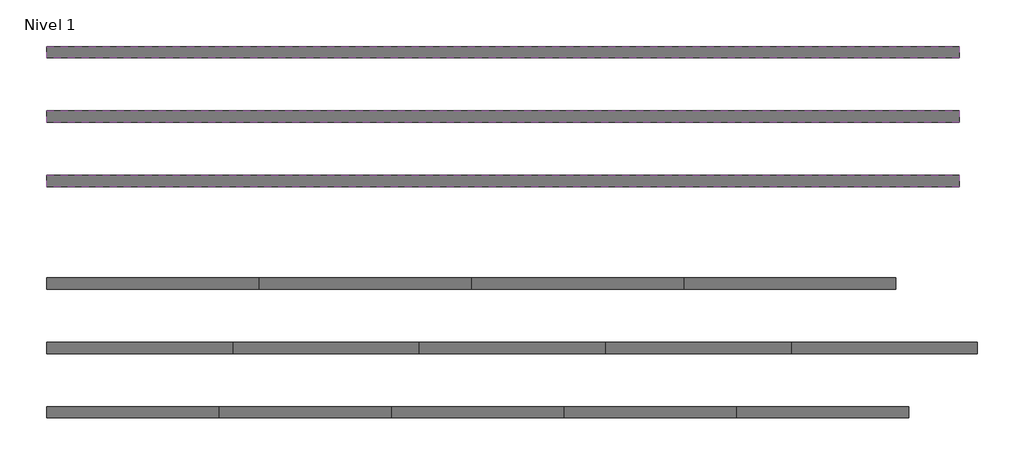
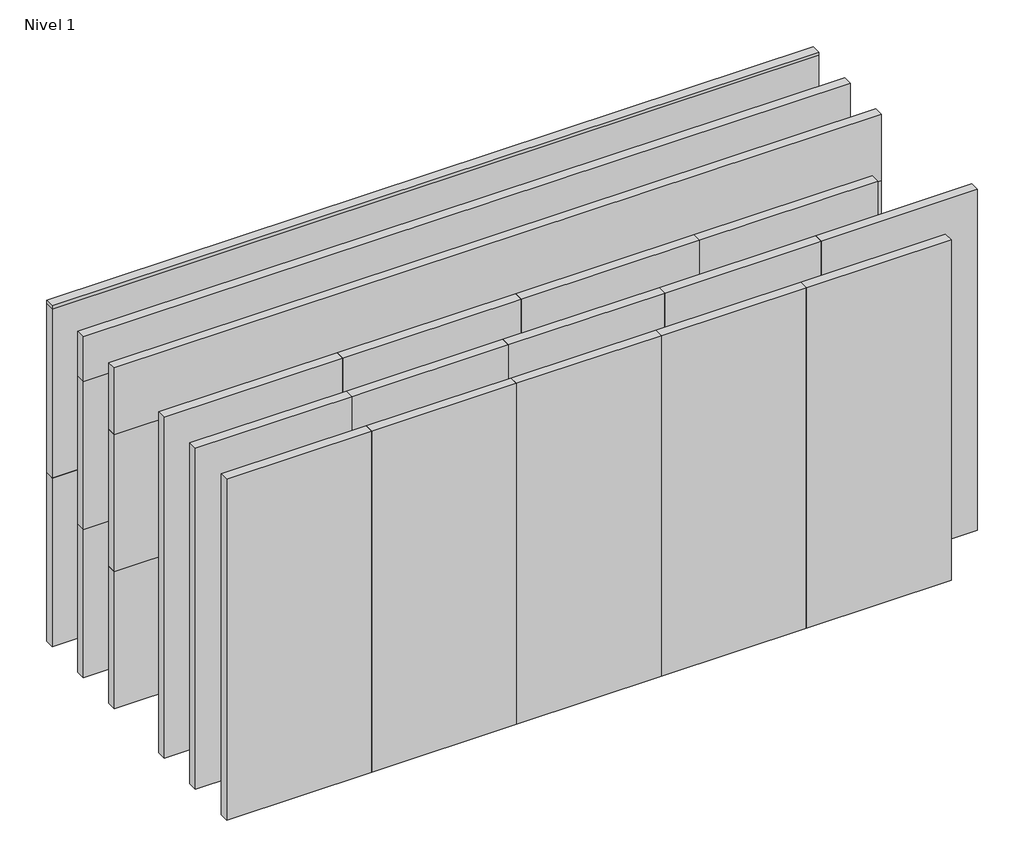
# One storey: 23 plates.
"""IFC4 building model written with IfcOpenShell, lengths in millimetres."""

from ifc_helpers import new_model, si_unit, origin, place, context, project, spatial, transform, mapped, element, save
from components import panel_del_sistema_744a27d1, panel_del_sistema_b48b2a53, panel_del_sistema_2bad36e5, panel_del_sistema_a0ea347b, panel_del_sistema_777d9fad, panel_del_sistema_c1a5f5a9, panel_del_sistema_afb86d00, panel_del_sistema_4e5da040, panel_del_sistema_0ed8374e

model = new_model("IFC4")

# Units and contexts
model_context = context("Model", 3, world=origin())
ifc_project = project(units=[si_unit("LENGTHUNIT", "METRE", prefix="MILLI")], contexts=[model_context])

# Site, building, storey
site = spatial("IfcSite", under=ifc_project)
building = spatial("IfcBuilding", under=site)
storey = spatial("IfcBuildingStorey", under=building, Name="Nivel 1", Elevation=0.0)

# Plates
placement = place(None, origin())
panel_del_sistema_shape = panel_del_sistema_744a27d1(model_context)
element("IfcPlate", 1, ObjectType="Panel del sistema : HIANSA - CHAPA PERFILADA CUBIERTA - MT53MA6 Hor", at=placement, inside=storey, context=model_context, shape_type="MappedRepresentation", body=[
    mapped(panel_del_sistema_shape, transform((6468.14367, 19036.5269271, 0.0), x_axis=(1.0, 0.0, 0.0), y_axis=(0.0, 1.0, 0.0), z_axis=(0.0, 0.0, 1.0))),
])
element("IfcPlate", 2, ObjectType="Panel del sistema : HIANSA - CHAPA PERFILADA CUBIERTA - MT53MA6 Hor", at=placement, inside=storey, context=model_context, shape_type="MappedRepresentation", body=[
    mapped(panel_del_sistema_shape, transform((6468.14367, 19036.5269271, 990.0), x_axis=(1.0, 0.0, 0.0), y_axis=(0.0, 1.0, 0.0), z_axis=(0.0, 0.0, 1.0))),
])
panel_del_sistema_2_shape = panel_del_sistema_b48b2a53(model_context)
element("IfcPlate", 3, ObjectType="Panel del sistema : HIANSA - CHAPA PERFILADA CUBIERTA - MT53MA6 Hor", at=placement, inside=storey, context=model_context, shape_type="MappedRepresentation", body=[
    mapped(panel_del_sistema_2_shape, transform((6468.14367, 19036.5269271, 1980.0), x_axis=(1.0, 0.0, 0.0), y_axis=(0.0, 1.0, 0.0), z_axis=(0.0, 0.0, 1.0))),
])
panel_del_sistema_3_shape = panel_del_sistema_2bad36e5(model_context)
element("IfcPlate", 4, ObjectType="Panel del sistema : HIANSA - CHAPA PERFILADA CUBIERTA - MT53MA6 Vert", at=placement, inside=storey, context=model_context, shape_type="MappedRepresentation", body=[
    mapped(panel_del_sistema_3_shape, transform((4835.1436702, 17958.0269271, 0.0), x_axis=(1.0, 0.0, 0.0), y_axis=(0.0, 1.0, 0.0), z_axis=(0.0, 0.0, 1.0))),
])
element("IfcPlate", 5, ObjectType="Panel del sistema : HIANSA - CHAPA PERFILADA CUBIERTA - MT53MA6 Vert", at=placement, inside=storey, context=model_context, shape_type="MappedRepresentation", body=[
    mapped(panel_del_sistema_3_shape, transform((5825.1436703, 17958.0269271, 0.0), x_axis=(1.0, 0.0, 0.0), y_axis=(0.0, 1.0, 0.0), z_axis=(0.0, 0.0, 1.0))),
])
element("IfcPlate", 6, ObjectType="Panel del sistema : HIANSA - CHAPA PERFILADA CUBIERTA - MT53MA6 Vert", at=placement, inside=storey, context=model_context, shape_type="MappedRepresentation", body=[
    mapped(panel_del_sistema_3_shape, transform((6815.1436703, 17958.0269271, 0.0), x_axis=(1.0, 0.0, 0.0), y_axis=(0.0, 1.0, 0.0), z_axis=(0.0, 0.0, 1.0))),
])
element("IfcPlate", 7, ObjectType="Panel del sistema : HIANSA - CHAPA PERFILADA CUBIERTA - MT53MA6 Vert", at=placement, inside=storey, context=model_context, shape_type="MappedRepresentation", body=[
    mapped(panel_del_sistema_3_shape, transform((7805.1436703, 17958.0269271, 0.0), x_axis=(1.0, 0.0, 0.0), y_axis=(0.0, 1.0, 0.0), z_axis=(0.0, 0.0, 1.0))),
])
panel_del_sistema_4_shape = panel_del_sistema_a0ea347b(model_context)
element("IfcPlate", 8, ObjectType="Panel del sistema : HIANSA - CHAPA PERFILADA CUBIERTA - MT53MA7 Hor", at=placement, inside=storey, context=model_context, shape_type="MappedRepresentation", body=[
    mapped(panel_del_sistema_4_shape, transform((6468.14367, 18736.5269271, 0.0), x_axis=(1.0, 0.0, 0.0), y_axis=(0.0, 1.0, 0.0), z_axis=(0.0, 0.0, 1.0))),
])
element("IfcPlate", 9, ObjectType="Panel del sistema : HIANSA - CHAPA PERFILADA CUBIERTA - MT53MA7 Hor", at=placement, inside=storey, context=model_context, shape_type="MappedRepresentation", body=[
    mapped(panel_del_sistema_4_shape, transform((6468.14367, 18736.5269271, 868.0), x_axis=(1.0, 0.0, 0.0), y_axis=(0.0, 1.0, 0.0), z_axis=(0.0, 0.0, 1.0))),
])
panel_del_sistema_5_shape = panel_del_sistema_777d9fad(model_context)
element("IfcPlate", 10, ObjectType="Panel del sistema : HIANSA - CHAPA PERFILADA CUBIERTA - MT53MA7 Hor", at=placement, inside=storey, context=model_context, shape_type="MappedRepresentation", body=[
    mapped(panel_del_sistema_5_shape, transform((6468.14367, 18736.5269271, 1736.0), x_axis=(1.0, 0.0, 0.0), y_axis=(0.0, 1.0, 0.0), z_axis=(0.0, 0.0, 1.0))),
])
panel_del_sistema_6_shape = panel_del_sistema_c1a5f5a9(model_context)
element("IfcPlate", 11, ObjectType="Panel del sistema : HIANSA - CHAPA PERFILADA CUBIERTA - MT53MA8 Hor", at=placement, inside=storey, context=model_context, shape_type="MappedRepresentation", body=[
    mapped(panel_del_sistema_6_shape, transform((6468.14367, 18436.5269271, 0.0), x_axis=(1.0, 0.0, 0.0), y_axis=(0.0, 1.0, 0.0), z_axis=(0.0, 0.0, 1.0))),
])
element("IfcPlate", 12, ObjectType="Panel del sistema : HIANSA - CHAPA PERFILADA CUBIERTA - MT53MA8 Hor", at=placement, inside=storey, context=model_context, shape_type="MappedRepresentation", body=[
    mapped(panel_del_sistema_6_shape, transform((6468.14367, 18436.5269271, 804.0), x_axis=(1.0, 0.0, 0.0), y_axis=(0.0, 1.0, 0.0), z_axis=(0.0, 0.0, 1.0))),
])
panel_del_sistema_7_shape = panel_del_sistema_afb86d00(model_context)
element("IfcPlate", 13, ObjectType="Panel del sistema : HIANSA - CHAPA PERFILADA CUBIERTA - MT53MA8 Hor", at=placement, inside=storey, context=model_context, shape_type="MappedRepresentation", body=[
    mapped(panel_del_sistema_7_shape, transform((6468.14367, 18436.5269271, 1608.0), x_axis=(1.0, 0.0, 0.0), y_axis=(0.0, 1.0, 0.0), z_axis=(0.0, 0.0, 1.0))),
])
panel_del_sistema_8_shape = panel_del_sistema_4e5da040(model_context)
element("IfcPlate", 14, ObjectType="Panel del sistema : HIANSA - CHAPA PERFILADA CUBIERTA - MT53MA7 Vert", at=placement, inside=storey, context=model_context, shape_type="MappedRepresentation", body=[
    mapped(panel_del_sistema_8_shape, transform((4774.1436702, 17658.0269271, 0.0), x_axis=(1.0, 0.0, 0.0), y_axis=(0.0, 1.0, 0.0), z_axis=(0.0, 0.0, 1.0))),
])
element("IfcPlate", 15, ObjectType="Panel del sistema : HIANSA - CHAPA PERFILADA CUBIERTA - MT53MA7 Vert", at=placement, inside=storey, context=model_context, shape_type="MappedRepresentation", body=[
    mapped(panel_del_sistema_8_shape, transform((6510.1436703, 17658.0269271, 0.0), x_axis=(1.0, 0.0, 0.0), y_axis=(0.0, 1.0, 0.0), z_axis=(0.0, 0.0, 1.0))),
])
element("IfcPlate", 16, ObjectType="Panel del sistema : HIANSA - CHAPA PERFILADA CUBIERTA - MT53MA7 Vert", at=placement, inside=storey, context=model_context, shape_type="MappedRepresentation", body=[
    mapped(panel_del_sistema_8_shape, transform((7378.1436703, 17658.0269271, 0.0), x_axis=(1.0, 0.0, 0.0), y_axis=(0.0, 1.0, 0.0), z_axis=(0.0, 0.0, 1.0))),
])
element("IfcPlate", 17, ObjectType="Panel del sistema : HIANSA - CHAPA PERFILADA CUBIERTA - MT53MA7 Vert", at=placement, inside=storey, context=model_context, shape_type="MappedRepresentation", body=[
    mapped(panel_del_sistema_8_shape, transform((8246.1436703, 17658.0269271, 0.0), x_axis=(1.0, 0.0, 0.0), y_axis=(0.0, 1.0, 0.0), z_axis=(0.0, 0.0, 1.0))),
])
element("IfcPlate", 18, ObjectType="Panel del sistema : HIANSA - CHAPA PERFILADA CUBIERTA - MT53MA7 Vert", at=placement, inside=storey, context=model_context, shape_type="MappedRepresentation", body=[
    mapped(panel_del_sistema_8_shape, transform((5642.1436703, 17658.0269271, 0.0), x_axis=(1.0, 0.0, 0.0), y_axis=(0.0, 1.0, 0.0), z_axis=(0.0, 0.0, 1.0))),
])
panel_del_sistema_9_shape = panel_del_sistema_0ed8374e(model_context)
element("IfcPlate", 19, ObjectType="Panel del sistema : HIANSA - CHAPA PERFILADA CUBIERTA - MT53MA8 Vert", at=placement, inside=storey, context=model_context, shape_type="MappedRepresentation", body=[
    mapped(panel_del_sistema_9_shape, transform((4742.1436702, 17358.0269271, 0.0), x_axis=(1.0, 0.0, 0.0), y_axis=(0.0, 1.0, 0.0), z_axis=(0.0, 0.0, 1.0))),
])
element("IfcPlate", 20, ObjectType="Panel del sistema : HIANSA - CHAPA PERFILADA CUBIERTA - MT53MA8 Vert", at=placement, inside=storey, context=model_context, shape_type="MappedRepresentation", body=[
    mapped(panel_del_sistema_9_shape, transform((6350.1436703, 17358.0269271, 0.0), x_axis=(1.0, 0.0, 0.0), y_axis=(0.0, 1.0, 0.0), z_axis=(0.0, 0.0, 1.0))),
])
element("IfcPlate", 21, ObjectType="Panel del sistema : HIANSA - CHAPA PERFILADA CUBIERTA - MT53MA8 Vert", at=placement, inside=storey, context=model_context, shape_type="MappedRepresentation", body=[
    mapped(panel_del_sistema_9_shape, transform((7154.1436703, 17358.0269271, 0.0), x_axis=(1.0, 0.0, 0.0), y_axis=(0.0, 1.0, 0.0), z_axis=(0.0, 0.0, 1.0))),
])
element("IfcPlate", 22, ObjectType="Panel del sistema : HIANSA - CHAPA PERFILADA CUBIERTA - MT53MA8 Vert", at=placement, inside=storey, context=model_context, shape_type="MappedRepresentation", body=[
    mapped(panel_del_sistema_9_shape, transform((7958.1436703, 17358.0269271, 0.0), x_axis=(1.0, 0.0, 0.0), y_axis=(0.0, 1.0, 0.0), z_axis=(0.0, 0.0, 1.0))),
])
element("IfcPlate", 23, ObjectType="Panel del sistema : HIANSA - CHAPA PERFILADA CUBIERTA - MT53MA8 Vert", at=placement, inside=storey, context=model_context, shape_type="MappedRepresentation", body=[
    mapped(panel_del_sistema_9_shape, transform((5546.1436703, 17358.0269271, 0.0), x_axis=(1.0, 0.0, 0.0), y_axis=(0.0, 1.0, 0.0), z_axis=(0.0, 0.0, 1.0))),
])

save(model, "model.ifc")
